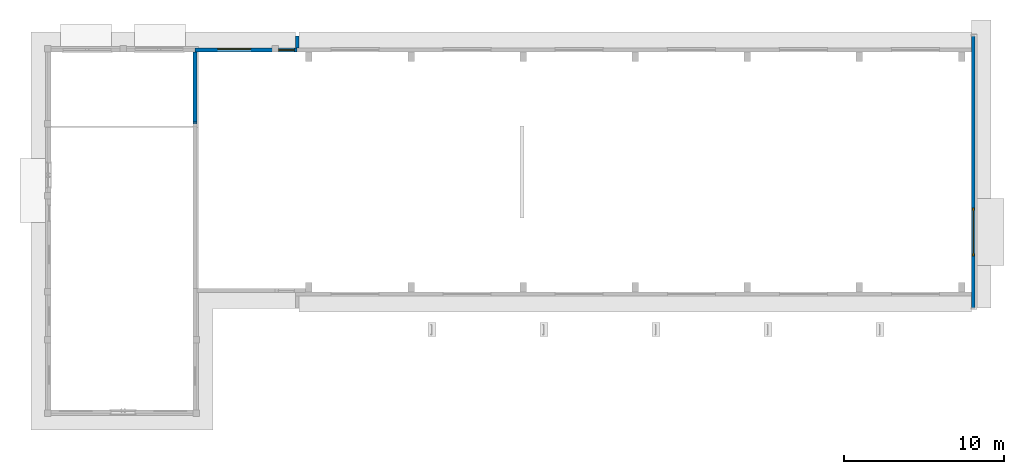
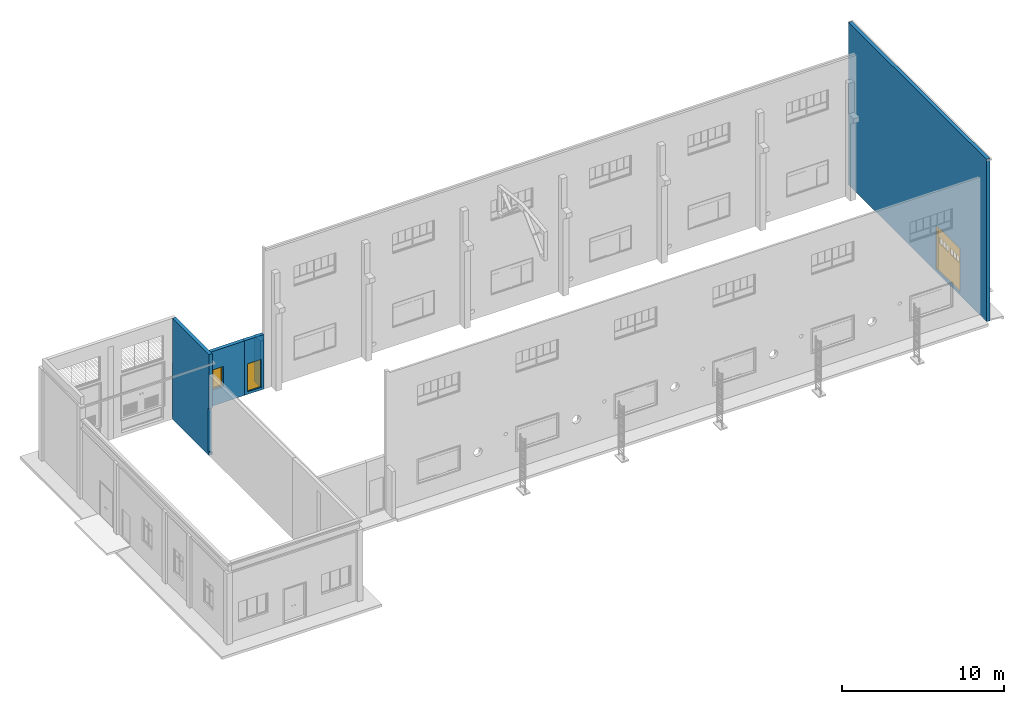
"""IFC2X3 building model written with IfcOpenShell, lengths in millimetres."""

import ifcopenshell
import ifcopenshell.guid

model = None  # the IFC model being written
_history = None  # IfcOwnerHistory: only IFC2X3 demands one
_inside = {}  # id of a spatial element -> (the spatial element, [elements in it])
_under = {}  # id of a project, library or spatial element -> (it, [spatial elements below it])
_declared = {}  # id of a project -> (the project, [libraries it declares])
_typed = {}  # id of a type object -> (the type object, [elements of that type])
_made_of = {}  # id of a material, layer set ... -> (it, [elements and type objects made of it])


def new_model(schema):
    """Start an empty IFC model of exactly this schema.

    Asked for "IFC4X3", IfcOpenShell would pick the latest addendum, in which some entities
    have other attributes; the version numbers below select the first issue.
    IFC2X3 requires an IfcOwnerHistory on every rooted entity: one is made here for all.
    """
    global model, _history
    if schema == "IFC4X3":
        model = ifcopenshell.file(schema_version=(4, 3, 0, 0))
    else:
        model = ifcopenshell.file(schema=schema)
    _inside.clear()
    _under.clear()
    _declared.clear()
    _typed.clear()
    _made_of.clear()
    _history = None
    if model.schema == "IFC2X3":
        org = make("IfcOrganization", Name="unknown")
        user = make(
            "IfcPersonAndOrganization",
            ThePerson=make("IfcPerson", FamilyName="unknown"),
            TheOrganization=org,
        )
        app = make(
            "IfcApplication",
            ApplicationDeveloper=org,
            Version="unknown",
            ApplicationFullName="unknown",
            ApplicationIdentifier="unknown",
        )
        _history = make(
            "IfcOwnerHistory",
            OwningUser=user,
            OwningApplication=app,
            ChangeAction="ADDED",
            CreationDate=0,
        )
    return model


def make(cls, **values):
    """One entity of the class cls with the attributes given. An attribute that is None is left unset."""
    return model.create_entity(
        cls, **{name: value for name, value in values.items() if value is not None}
    )


def entity(cls, *values):
    """Any entity or typed value of the class cls, its attributes in the order of the schema. None: left unset."""
    e = model.create_entity(cls)
    for i, value in enumerate(values):
        if value is not None:
            e[i] = value
    return e


def rooted(cls, **values):
    """An entity with a GlobalId (a new one), such as an element, a storey or a relation."""
    return make(cls, GlobalId=ifcopenshell.guid.new(), OwnerHistory=_history, **values)


def si_unit(unit_type, name, prefix=None):
    """IfcSIUnit, for example si_unit("LENGTHUNIT", "METRE", prefix="MILLI")."""
    return make("IfcSIUnit", UnitType=unit_type, Prefix=prefix, Name=name)


def converted_unit(unit_type, name, factor, base, dimensions=None, offset=None):
    """IfcConversionBasedUnit, such as the inch: factor (a typed value) times the base unit."""
    return make(
        "IfcConversionBasedUnit"
        if offset is None
        else "IfcConversionBasedUnitWithOffset",
        ConversionOffset=offset,
        Dimensions=None
        if dimensions is None
        else entity("IfcDimensionalExponents", *dimensions),
        UnitType=unit_type,
        Name=name,
        ConversionFactor=make(
            "IfcMeasureWithUnit", ValueComponent=factor, UnitComponent=base
        ),
    )


def derived_unit(unit_type, elements):
    """IfcDerivedUnit: a product of units, each with its exponent."""
    return make(
        "IfcDerivedUnit",
        Elements=[
            make("IfcDerivedUnitElement", Unit=unit, Exponent=power)
            for unit, power in elements
        ],
        UnitType=unit_type,
    )


def assignment(units):
    """IfcUnitAssignment: the units of a project."""
    return None if units is None else make("IfcUnitAssignment", Units=units)


def point(xyz):
    """IfcCartesianPoint."""
    return None if xyz is None else make("IfcCartesianPoint", Coordinates=xyz)


def direction(xyz):
    """IfcDirection."""
    return None if xyz is None else make("IfcDirection", DirectionRatios=xyz)


def frame(location, z_axis=None, x_axis=None):
    """IfcAxis2Placement3D, a coordinate frame: its origin and axes. An axis left out is left unset."""
    return make(
        "IfcAxis2Placement3D",
        Location=point(location),
        Axis=direction(z_axis),
        RefDirection=direction(x_axis),
    )


def frame_2d(location, x_axis=None):
    """IfcAxis2Placement2D, a coordinate frame in the plane: its origin and x axis."""
    return make(
        "IfcAxis2Placement2D", Location=point(location), RefDirection=direction(x_axis)
    )


def origin():
    """The frame at (0, 0, 0) with its axes left unset."""
    return frame((0.0, 0.0, 0.0))


def origin_2d_with_axis():
    """The frame at (0, 0) in the plane with the x axis (1, 0) written out."""
    return frame_2d((0.0, 0.0), x_axis=(1.0, 0.0))


def place(relative_to, where):
    """IfcLocalPlacement: puts the frame where relative to a parent placement (None: the world)."""
    return make(
        "IfcLocalPlacement", PlacementRelTo=relative_to, RelativePlacement=where
    )


def context(
    kind, dimensions, precision=None, world=None, true_north=None, identifier=None
):
    """IfcGeometricRepresentationContext, for example the 3D "Model" context."""
    return make(
        "IfcGeometricRepresentationContext",
        ContextIdentifier=identifier,
        ContextType=kind,
        CoordinateSpaceDimension=dimensions,
        Precision=precision,
        WorldCoordinateSystem=world,
        TrueNorth=true_north,
    )


def subcontext(parent, identifier, kind, view, scale=None):
    """IfcGeometricRepresentationSubContext, for example "Body" below "Model"."""
    return make(
        "IfcGeometricRepresentationSubContext",
        ContextIdentifier=identifier,
        ContextType=kind,
        ParentContext=parent,
        TargetScale=scale,
        TargetView=view,
    )


def project(units=None, contexts=None):
    """IfcProject with its units and contexts."""
    return rooted(
        "IfcProject",
        Name="project",
        RepresentationContexts=contexts,
        UnitsInContext=assignment(units),
    )


def spatial(cls, under=None, at=None, **own):
    """A site, building, storey or space (cls), placed at a placement, below another one or the project."""
    s = rooted(cls, ObjectPlacement=at, **own)
    if under is not None:
        _under.setdefault(under.id(), (under, []))[1].append(s)
    return s


def polyline(points):
    """IfcPolyline through the points."""
    return make("IfcPolyline", Points=[point(p) for p in points])


def profile(cls, at=None, kind="AREA", **sizes):
    """A parametric profile (cls). Its sizes go by their IFC names, for example OverallWidth=200.0."""
    return make(cls, ProfileType=kind, Position=at, **sizes)


def rectangle(**sizes):
    """IfcRectangleProfileDef."""
    return profile("IfcRectangleProfileDef", **sizes)


def outline(outer, holes=None, kind="AREA"):
    """IfcArbitraryClosedProfileDef: a profile drawn as a closed curve; with holes, ...WithVoids."""
    if holes is None:
        return make("IfcArbitraryClosedProfileDef", ProfileType=kind, OuterCurve=outer)
    return make(
        "IfcArbitraryProfileDefWithVoids",
        ProfileType=kind,
        OuterCurve=outer,
        InnerCurves=holes,
    )


def extrude(swept, where, along, depth):
    """IfcExtrudedAreaSolid: the profile swept, set in the frame where, extruded along a direction by depth."""
    return make(
        "IfcExtrudedAreaSolid",
        SweptArea=swept,
        Position=where,
        ExtrudedDirection=direction(along),
        Depth=depth,
    )


def clip(a, b, op="DIFFERENCE"):
    """IfcBooleanClippingResult: the solid a cut by the half space b."""
    return make(
        "IfcBooleanClippingResult", Operator=op, FirstOperand=a, SecondOperand=b
    )


def bounded_halfspace(plane, agree, where, boundary):
    """IfcPolygonalBoundedHalfSpace: a half space limited to a polygon's prism."""
    return make(
        "IfcPolygonalBoundedHalfSpace",
        BaseSurface=make("IfcPlane", Position=plane),
        AgreementFlag=agree,
        Position=where,
        PolygonalBoundary=boundary,
    )


def shape(context_of_items, identifier, shape_type, items):
    """IfcShapeRepresentation: the items that make up one representation, for example the "Body"."""
    return make(
        "IfcShapeRepresentation",
        ContextOfItems=context_of_items,
        RepresentationIdentifier=identifier,
        RepresentationType=shape_type,
        Items=items,
    )


def source(mapping_origin, context_of_items, identifier, shape_type, items):
    """IfcRepresentationMap: a shape defined once, which mapped items show again and again."""
    return make(
        "IfcRepresentationMap",
        MappingOrigin=mapping_origin,
        MappedRepresentation=shape(context_of_items, identifier, shape_type, items),
    )


def transform(
    local_origin,
    x_axis=None,
    y_axis=None,
    z_axis=None,
    scale=None,
    scale2=None,
    scale3=None,
    uniform=True,
):
    """IfcCartesianTransformationOperator3D, or its non-uniform kind. x_axis, y_axis, z_axis: its Axis1, 2, 3."""
    if uniform:
        return make(
            "IfcCartesianTransformationOperator3D",
            Axis1=direction(x_axis),
            Axis2=direction(y_axis),
            LocalOrigin=point(local_origin),
            Scale=scale,
            Axis3=direction(z_axis),
        )
    return make(
        "IfcCartesianTransformationOperator3DnonUniform",
        Axis1=direction(x_axis),
        Axis2=direction(y_axis),
        LocalOrigin=point(local_origin),
        Scale=scale,
        Axis3=direction(z_axis),
        Scale2=scale2,
        Scale3=scale3,
    )


def mapped(mapping_source, mapping_target):
    """IfcMappedItem: shows the shape of a source again, moved by a transform."""
    return make(
        "IfcMappedItem", MappingSource=mapping_source, MappingTarget=mapping_target
    )


def material(Name=None, Category=None):
    """IfcMaterial."""
    return make("IfcMaterial", Name=Name, Category=Category)


def material_list(materials):
    """IfcMaterialList."""
    return make("IfcMaterialList", Materials=materials)


def layer(
    of_material, thickness, ventilated=None, Name=None, Category=None, Priority=None
):
    """IfcMaterialLayer: one layer of a wall or slab, of a material (None: an air gap)."""
    return make(
        "IfcMaterialLayer",
        Material=of_material,
        LayerThickness=thickness,
        IsVentilated=ventilated,
        Name=Name,
        Category=Category,
        Priority=Priority,
    )


def layer_set(layers, Name=None):
    """IfcMaterialLayerSet."""
    return make("IfcMaterialLayerSet", MaterialLayers=layers, LayerSetName=Name)


def layer_usage(for_layer_set, set_direction, sense, offset, extent=None):
    """IfcMaterialLayerSetUsage: how a layer set lies in its element."""
    return make(
        "IfcMaterialLayerSetUsage",
        ForLayerSet=for_layer_set,
        LayerSetDirection=set_direction,
        DirectionSense=sense,
        OffsetFromReferenceLine=offset,
        ReferenceExtent=extent,
    )


def made_of(thing, what):
    """Note that an element or type object is made of a material, layer set ...; save() writes the relation."""
    if what is not None:
        _made_of.setdefault(what.id(), (what, []))[1].append(thing)
    return thing


def type_object(cls, material=None, **own):
    """A type object (cls), such as IfcWallType, which elements share."""
    return made_of(rooted(cls, **own), material)


def type_shapes(of_type, sources):
    """Give a type object the sources (RepresentationMaps) that its elements show as mapped items."""
    of_type.RepresentationMaps = sources


def element(
    cls,
    number,
    at=None,
    inside=None,
    cuts=None,
    type_object=None,
    material=None,
    context=None,
    identifier="Body",
    shape_type=None,
    held_by="IfcProductDefinitionShape",
    body=None,
    shapes=None,
    **own,
):
    """One element of the class cls, such as IfcWall. Its Tag is "e" and its number.

    at: its placement. inside: the storey or other place that contains it. cuts: it is an
    opening in that element (IfcRelVoidsElement). A single representation is given by context,
    identifier, shape_type and body (its items); several are given by shapes. held_by: the class
    of the entity that holds the representations. save() writes the other relations.
    """
    e = rooted(cls, Tag="e%d" % number, ObjectPlacement=at, **own)
    if body is not None:
        shapes = [shape(context, identifier, shape_type, body)]
    if shapes is not None:
        e.Representation = make(held_by, Representations=shapes)
    if inside is not None:
        _inside.setdefault(inside.id(), (inside, []))[1].append(e)
    if cuts is not None:
        rooted(
            "IfcRelVoidsElement", RelatingBuildingElement=cuts, RelatedOpeningElement=e
        )
    if type_object is not None:
        _typed.setdefault(type_object.id(), (type_object, []))[1].append(e)
    return made_of(e, material)


def fill(opening, filler):
    """IfcRelFillsElement: the door or window that sits in an opening."""
    return rooted(
        "IfcRelFillsElement",
        RelatingOpeningElement=opening,
        RelatedBuildingElement=filler,
    )


def aggregate(whole, parts):
    """IfcRelAggregates: a whole, such as a stair, and the parts it consists of."""
    return rooted("IfcRelAggregates", RelatingObject=whole, RelatedObjects=parts)


def save(model, path):
    """Write the relations noted so far, then the file.

    IfcRelAggregates (storeys below a building ...), IfcRelContainedInSpatialStructure (elements
    in a storey), IfcRelDefinesByType, IfcRelAssociatesMaterial and IfcRelDeclares: one each for
    every whole, place, type object, material and project.
    """
    for whole, parts in _under.values():
        aggregate(whole, parts)
    for where, things in _inside.values():
        rooted(
            "IfcRelContainedInSpatialStructure",
            RelatedElements=things,
            RelatingStructure=where,
        )
    for kind, things in _typed.values():
        rooted("IfcRelDefinesByType", RelatedObjects=things, RelatingType=kind)
    for what, things in _made_of.values():
        rooted("IfcRelAssociatesMaterial", RelatedObjects=things, RelatingMaterial=what)
    for by, libraries in _declared.values():
        rooted("IfcRelDeclares", RelatingContext=by, RelatedDefinitions=libraries)
    model.write(path)


model = new_model("IFC2X3")

# Units and contexts
model_context = context("Model", 3, precision=0.01, world=origin(), true_north=direction((6.12303176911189e-17, 1.0)))
body_context = subcontext(model_context, "Body", "Model", "MODEL_VIEW")
ifc_project = project(units=[si_unit("LENGTHUNIT", "METRE", prefix="MILLI"), si_unit("AREAUNIT", "SQUARE_METRE"), si_unit("VOLUMEUNIT", "CUBIC_METRE"), converted_unit("PLANEANGLEUNIT", "DEGREE", entity("IfcRatioMeasure", 0.0174532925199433), si_unit("PLANEANGLEUNIT", "RADIAN"), dimensions=[0, 0, 0, 0, 0, 0, 0]), si_unit("MASSUNIT", "GRAM", prefix="KILO"), derived_unit("MASSDENSITYUNIT", [(si_unit("MASSUNIT", "GRAM", prefix="KILO"), 1), (si_unit("LENGTHUNIT", "METRE"), -3)]), si_unit("TIMEUNIT", "SECOND"), si_unit("FREQUENCYUNIT", "HERTZ"), si_unit("THERMODYNAMICTEMPERATUREUNIT", "DEGREE_CELSIUS"), derived_unit("THERMALTRANSMITTANCEUNIT", [(si_unit("MASSUNIT", "GRAM", prefix="KILO"), 1), (si_unit("THERMODYNAMICTEMPERATUREUNIT", "KELVIN"), -1), (si_unit("TIMEUNIT", "SECOND"), -3)]), derived_unit("VOLUMETRICFLOWRATEUNIT", [(si_unit("LENGTHUNIT", "METRE"), 3), (si_unit("TIMEUNIT", "SECOND"), -1)]), si_unit("ELECTRICCURRENTUNIT", "AMPERE"), si_unit("ELECTRICVOLTAGEUNIT", "VOLT"), si_unit("POWERUNIT", "WATT"), si_unit("FORCEUNIT", "NEWTON", prefix="KILO"), si_unit("ILLUMINANCEUNIT", "LUX"), si_unit("LUMINOUSFLUXUNIT", "LUMEN"), si_unit("LUMINOUSINTENSITYUNIT", "CANDELA"), derived_unit("USERDEFINED", [(si_unit("MASSUNIT", "GRAM", prefix="KILO"), -1), (si_unit("LENGTHUNIT", "METRE"), -2), (si_unit("TIMEUNIT", "SECOND"), 3), (si_unit("LUMINOUSFLUXUNIT", "LUMEN"), 1)]), derived_unit("LINEARVELOCITYUNIT", [(si_unit("LENGTHUNIT", "METRE"), 1), (si_unit("TIMEUNIT", "SECOND"), -1)]), si_unit("PRESSUREUNIT", "PASCAL"), derived_unit("USERDEFINED", [(si_unit("LENGTHUNIT", "METRE"), -2), (si_unit("MASSUNIT", "GRAM", prefix="KILO"), 1), (si_unit("TIMEUNIT", "SECOND"), -2)])], contexts=[model_context])

# Site, building, storey
site_placement = place(None, origin())
site = spatial("IfcSite", under=ifc_project, at=site_placement, Name="表面", CompositionType="ELEMENT")
building_placement = place(site_placement, origin())
building = spatial("IfcBuilding", under=site, at=building_placement, CompositionType="ELEMENT")
storey_1_placement = place(building_placement, frame((0.0, 0.0, -200.0)))
storey_1 = spatial("IfcBuildingStorey", under=building, at=storey_1_placement, Name="室外地坪", CompositionType="ELEMENT", Elevation=-200.0)

# Wall, openings
ifc_material_1 = material(Name="砖石建筑 - 砖")
ifc_layer = layer(ifc_material_1, 240.0)
ifc_layer_set = layer_set([ifc_layer], Name="基本墙:砖墙240mm")
ifc_layer_usage_1 = layer_usage(ifc_layer_set, "AXIS2", "POSITIVE", -120.0)
wall_type = type_object("IfcWallType", Name="基本墙:砖墙240mm", PredefinedType="STANDARD", material=ifc_layer_set)
wall_1_placement = place(storey_1_placement, frame((10091.201218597, -380.302592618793, 0.0), z_axis=(0.0, 0.0, 1.0), x_axis=(0.0, 1.0, 0.0)))
wall_1 = element("IfcWallStandardCase", 1, at=wall_1_placement, inside=storey_1, type_object=wall_type, material=ifc_layer_usage_1, Name="基本墙:砖墙240mm", ObjectType="基本墙:砖墙240mm", context=body_context, shape_type="SweptSolid", body=[
    extrude(rectangle(XDim=240.0, YDim=16980.0000000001, at=frame_2d((-60.0000000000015, -3.54702933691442e-11), x_axis=(1.0, 0.0))), frame((8490.0, 60.0, 0.0), z_axis=(0.0, 0.0, 1.0), x_axis=(0.0, 1.0, 0.0)), (0.0, 0.0, 1.0), 12200.0),
])
opening_1_placement = place(storey_1_placement, frame((10091.201218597, -380.302592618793, 0.0), z_axis=(0.0, 0.0, 1.0), x_axis=(0.0, 1.0, 0.0)))
element("IfcOpeningElement", 2, at=opening_1_placement, cuts=wall_1, Name="基本墙:砖墙240mm:1", ObjectType="Opening", context=body_context, shape_type="SweptSolid", body=[
    extrude(rectangle(XDim=3299.99999999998, YDim=3000.0, at=frame_2d((3.41060513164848e-13, 0.0), x_axis=(1.0, 0.0))), frame((4740.0, 120.0, 1850.0), z_axis=(0.0, -1.0, 0.0), x_axis=(0.0, 0.0, -1.0)), (0.0, 0.0, 1.0), 240.0),
])
opening_2_placement = place(wall_1_placement, frame((6240.0, 120.0, 200.0)))
opening_2 = element("IfcOpeningElement", 3, at=opening_2_placement, cuts=wall_1, Name="门M2:门M2:1", ObjectType="Opening", context=body_context, shape_type="SweptSolid", body=[
    extrude(rectangle(XDim=3299.99999999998, YDim=3000.0, at=frame_2d((1649.99999999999, 1500.0), x_axis=(1.0, 0.0))), frame((0.0, 0.0, 0.0), z_axis=(0.0, -1.0, 0.0), x_axis=(0.0, 0.0, 1.0)), (0.0, 0.0, 1.0), 240.0),
])

# Storey
storey_2_placement = place(building_placement, origin())
storey_2 = spatial("IfcBuildingStorey", under=building, at=storey_2_placement, Name="±0.000", CompositionType="ELEMENT", Elevation=0.0)

# Door
door_style_1 = type_object("IfcDoorStyle", Name="门M2", ConstructionType="NOTDEFINED", OperationType="DOUBLE_DOOR_SINGLE_SWING", ParameterTakesPrecedence=False, Sizeable=False)
shared_shape_1 = source(origin(), body_context, "Body", "SweptSolid", [
    extrude(rectangle(XDim=30.0, YDim=600.000000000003, at=origin_2d_with_axis()), frame((885.0, 120.0, 100.0), z_axis=(0.0, 0.0, 1.0), x_axis=(0.0, 1.0, 0.0)), (0.0, 0.0, 1.0), 1750.0),
    extrude(outline(polyline([(-670.0, -1610.0), (670.0, -1610.0), (670.0, 1610.0), (-670.0, 1610.0), (-670.0, -1610.0)]), holes=[polyline([(-210.0, -895.0), (-530.0, -895.0), (-530.0, -445.0), (-210.0, -445.0), (-210.0, -895.0)]), polyline([(-160.0, -895.0), (-160.0, -445.0), (160.0, -445.0), (160.0, -895.0), (-160.0, -895.0)]), polyline([(210.0, -895.0), (210.0, -445.0), (530.0, -445.0), (530.0, -895.0), (210.0, -895.0)]), polyline([(-245.0, 1510.0), (355.0, 1510.0), (355.0, -240.0), (-245.0, -240.0), (-245.0, 1510.0)])]), frame((830.0, 100.0, 1610.0), z_axis=(0.0, 1.0, 0.0), x_axis=(1.0, 0.0, 0.0)), (0.0, 0.0, 1.0), 40.0),
    extrude(outline(polyline([(-670.0, -1610.0), (670.0, -1610.0), (670.0, 1610.0), (-670.0, 1610.0), (-670.0, -1610.0)]), holes=[polyline([(210.0, -895.0), (210.0, -445.0), (530.0, -445.0), (530.0, -895.0), (210.0, -895.0)]), polyline([(-530.0, -895.0), (-530.0, -445.0), (-210.0, -445.0), (-210.0, -895.0), (-530.0, -895.0)]), polyline([(-160.0, -895.0), (-160.0, -445.0), (160.0, -445.0), (160.0, -895.0), (-160.0, -895.0)])]), frame((2170.0, 100.0, 1610.0), z_axis=(0.0, 1.0, 0.0), x_axis=(1.0, 0.0, 0.0)), (0.0, 0.0, 1.0), 40.0),
    extrude(outline(polyline([(-1500.0, -1670.0), (1500.0, -1670.0), (1500.0, 1630.0), (1340.0, 1630.0), (1340.0, -1590.0), (-1340.0, -1590.0), (-1340.0, 1630.0), (-1500.0, 1630.0), (-1500.0, -1670.0)])), frame((1500.0, 60.0, 1630.0), z_axis=(0.0, 1.0, 0.0), x_axis=(1.0, 0.0, 0.0)), (0.0, 0.0, 1.0), 120.0),
])
type_shapes(door_style_1, [shared_shape_1])
door_1_placement = place(opening_2_placement, frame((0.0, 0.0, 0.0), z_axis=(0.0, 0.0, 1.0), x_axis=(-1.0, 0.0, 0.0)))
door_1 = element("IfcDoor", 4, at=door_1_placement, inside=storey_2, type_object=door_style_1, Name="门M2:门M2", ObjectType="门M2", OverallHeight=3299.99999999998, OverallWidth=3000.0, context=body_context, shape_type="MappedRepresentation", body=[
    mapped(shared_shape_1, transform((0.0, 0.0, 0.0), scale=1.0)),
])

fill(opening_2, door_1)

# Wall, opening, door
ifc_layer_usage_2 = layer_usage(ifc_layer_set, "AXIS2", "NEGATIVE", 120.0)
wall_2_placement = place(storey_1_placement, frame((-33528.798781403, 15729.6974073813, 0.0)))
wall_2 = element("IfcWallStandardCase", 5, at=wall_2_placement, inside=storey_1, type_object=wall_type, material=ifc_layer_usage_2, Name="基本墙:砖墙240mm", ObjectType="基本墙:砖墙240mm", context=body_context, shape_type="SweptSolid", body=[
    extrude(rectangle(XDim=1379.99999999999, YDim=240.0, at=frame_2d((689.999999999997, 1.17950094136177e-12), x_axis=(-1.0, 0.0))), origin(), (0.0, 0.0, 1.0), 4100.0),
])
opening_3_placement = place(wall_2_placement, frame((200.0, -120.0, 200.0)))
opening_3 = element("IfcOpeningElement", 6, at=opening_3_placement, cuts=wall_2, Name="单开门:M5:1", ObjectType="Opening", context=body_context, shape_type="SweptSolid", body=[
    extrude(rectangle(XDim=2100.0, YDim=1000.0, at=frame_2d((1050.0, 500.0), x_axis=(1.0, 0.0))), frame((0.0, 0.0, 0.0), z_axis=(0.0, 1.0, 0.0), x_axis=(0.0, 0.0, 1.0)), (0.0, 0.0, 1.0), 240.0),
])
ifc_material_2 = material(Name="塑钢")
ifc_material_3 = material(Name="木质 - 木材")
ifc_material_list_1 = material_list([ifc_material_2, ifc_material_3])
ifc_material_list_2 = material_list([ifc_material_2, ifc_material_3])
door_style_2 = type_object("IfcDoorStyle", Name="M5", ConstructionType="NOTDEFINED", OperationType="SINGLE_SWING_LEFT", ParameterTakesPrecedence=False, Sizeable=False, material=ifc_material_list_2)
shared_shape_2 = source(origin(), body_context, "Body", "SweptSolid", [
    extrude(outline(polyline([(-1057.5, -500.0), (1042.5, -500.0), (1042.5, -470.0), (-1027.5, -470.0), (-1027.5, 470.0), (1042.5, 470.0), (1042.5, 500.0), (-1057.5, 500.0), (-1057.5, -500.0)])), frame((500.0, 95.0, 1042.5), z_axis=(0.0, 1.0, 0.0), x_axis=(0.0, 0.0, -1.0)), (0.0, 0.0, 1.0), 50.0),
    extrude(rectangle(XDim=30.0, YDim=940.0, at=origin_2d_with_axis()), frame((500.0, 120.0, 0.0), z_axis=(0.0, 0.0, 1.0), x_axis=(0.0, 1.0, 0.0)), (0.0, 0.0, 1.0), 2070.0),
])
type_shapes(door_style_2, [shared_shape_2])
door_2_placement = place(opening_3_placement, origin())
door_2 = element("IfcDoor", 7, at=door_2_placement, inside=storey_2, type_object=door_style_2, material=ifc_material_list_1, Name="单开门:M5", ObjectType="M5", OverallHeight=2100.0, OverallWidth=999.999999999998, context=body_context, shape_type="MappedRepresentation", body=[
    mapped(shared_shape_2, transform((0.0, 0.0, 0.0), scale=1.0)),
])
fill(opening_3, door_2)

# Wall, opening, window
ifc_layer_usage_3 = layer_usage(ifc_layer_set, "AXIS2", "NEGATIVE", 120.0)
wall_3_placement = place(storey_1_placement, frame((-38528.798781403, 15729.6974073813, 0.0)))
wall_3 = element("IfcWallStandardCase", 8, at=wall_3_placement, inside=storey_1, type_object=wall_type, material=ifc_layer_usage_3, Name="基本墙:砖墙240mm", ObjectType="基本墙:砖墙240mm", context=body_context, shape_type="SweptSolid", body=[
    extrude(rectangle(XDim=5000.00000000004, YDim=240.000000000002, at=frame_2d((2500.00000000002, 6.03961325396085e-13), x_axis=(-1.0, 0.0))), origin(), (0.0, 0.0, 1.0), 4100.0),
])
opening_4_placement = place(wall_3_placement, frame((1390.0, -120.0, 1200.0)))
opening_4 = element("IfcOpeningElement", 9, at=opening_4_placement, cuts=wall_3, Name="平开窗（c-3）:平开窗（c-3）:1", ObjectType="Opening", context=body_context, shape_type="SweptSolid", body=[
    extrude(rectangle(XDim=1500.0, YDim=2100.0, at=frame_2d((750.0, 1050.0), x_axis=(1.0, 0.0))), frame((0.0, 0.0, 0.0), z_axis=(0.0, 1.0, 0.0), x_axis=(0.0, 0.0, 1.0)), (0.0, 0.0, 1.0), 240.0),
])
ifc_material_4 = material(Name="窗框材质量")
ifc_material_5 = material(Name="玻璃")
ifc_material_6 = material(Name="金属－铝")
ifc_material_list_3 = material_list([ifc_material_4, ifc_material_5, ifc_material_6])
ifc_material_list_4 = material_list([ifc_material_4, ifc_material_5, ifc_material_6])
window_style = type_object("IfcWindowStyle", Name="平开窗（c-3）", ConstructionType="NOTDEFINED", OperationType="NOTDEFINED", ParameterTakesPrecedence=False, Sizeable=False, material=ifc_material_list_4)
shared_shape_3 = source(origin(), body_context, "Body", "SweptSolid", [
    extrude(outline(polyline([(-1050.0, -750.0), (1050.0, -750.0), (1050.0, 750.0), (-1050.0, 750.0), (-1050.0, -750.0)]), holes=[polyline([(-990.0, -690.0), (-990.0, 690.0), (990.0, 690.0), (990.0, -690.0), (-990.0, -690.0)])]), frame((1050.0, 135.0, 750.0), z_axis=(0.0, 1.0, 0.0), x_axis=(1.0, 0.0, 0.0)), (0.0, 0.0, 1.0), 59.9999999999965),
    extrude(rectangle(XDim=6.00000000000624, YDim=1980.0, at=frame_2d((-4.21884749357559e-15, 0.0), x_axis=(1.0, 0.0))), frame((1050.0, 165.0, 60.0), z_axis=(0.0, 0.0, 1.0), x_axis=(0.0, 1.0, 0.0)), (0.0, 0.0, 1.0), 1380.0),
    extrude(rectangle(XDim=59.9999999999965, YDim=60.0, at=frame_2d((-5.32907051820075e-15, -3.37507799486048e-14), x_axis=(1.0, 0.0))), frame((700.0, 165.0, 60.0), z_axis=(0.0, 0.0, 1.0), x_axis=(0.0, 1.0, 0.0)), (0.0, 0.0, 1.0), 1380.0),
    extrude(rectangle(XDim=59.9999999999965, YDim=60.0, at=frame_2d((5.32907051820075e-15, -3.37507799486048e-14), x_axis=(1.0, 0.0))), frame((1400.0, 165.0, 60.0), z_axis=(0.0, 0.0, 1.0), x_axis=(0.0, 1.0, 0.0)), (0.0, 0.0, 1.0), 1380.0),
])
type_shapes(window_style, [shared_shape_3])
window_placement = place(opening_4_placement, origin())
window = element("IfcWindow", 10, at=window_placement, inside=storey_2, type_object=window_style, material=ifc_material_list_3, Name="平开窗（c-3）:平开窗（c-3）", ObjectType="平开窗（c-3）", OverallHeight=1500.0, OverallWidth=2100.0, context=body_context, shape_type="MappedRepresentation", body=[
    mapped(shared_shape_3, transform((0.0, 0.0, 0.0), scale=1.0)),
])
fill(opening_4, window)

# Walls
ifc_layer_usage_4 = layer_usage(ifc_layer_set, "AXIS2", "NEGATIVE", 120.0)
wall_4_placement = place(storey_1_placement, frame((-32148.798781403, 15849.6974073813, 0.0), z_axis=(0.0, 0.0, 1.0), x_axis=(0.0, 1.0, 0.0)))
element("IfcWallStandardCase", 11, at=wall_4_placement, inside=storey_1, type_object=wall_type, material=ifc_layer_usage_4, Name="基本墙:砖墙240mm", ObjectType="基本墙:砖墙240mm", context=body_context, shape_type="SweptSolid", body=[
    extrude(rectangle(XDim=750.000000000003, YDim=239.999999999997, at=frame_2d((375.000000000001, 0.0), x_axis=(-1.0, 0.0))), origin(), (0.0, 0.0, 1.0), 3500.0),
])
ifc_layer_usage_5 = layer_usage(ifc_layer_set, "AXIS2", "NEGATIVE", 120.0)
wall_5_placement = place(storey_1_placement, frame((-38528.798781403, 10989.6974073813, 0.0), z_axis=(0.0, 0.0, 1.0), x_axis=(0.0, 1.0, 0.0)))
element("IfcWallStandardCase", 12, at=wall_5_placement, inside=storey_1, type_object=wall_type, material=ifc_layer_usage_5, Name="基本墙:砖墙240mm", ObjectType="基本墙:砖墙240mm", context=body_context, shape_type="Clipping", body=[
    clip(extrude(rectangle(XDim=4500.00000000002, YDim=240.000000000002, at=frame_2d((2370.00000000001, -2.40873987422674e-12), x_axis=(-1.0, 0.0))), origin(), (0.0, 0.0, 1.0), 7590.0), bounded_halfspace(frame((240.0, 120.0, 200.0), z_axis=(1.0, 0.0, 0.0), x_axis=(0.0, 1.0, 0.0)), True, frame((240.0, 120.0, 200.0), z_axis=(1.0, 0.0, 0.0), x_axis=(0.0, 1.0, 0.0)), polyline([(0.0, 0.0), (0.0, 3300.0), (-240.0, 3300.0), (-240.0, 0.0), (0.0, 0.0)]))),
])

save(model, "model.ifc")
